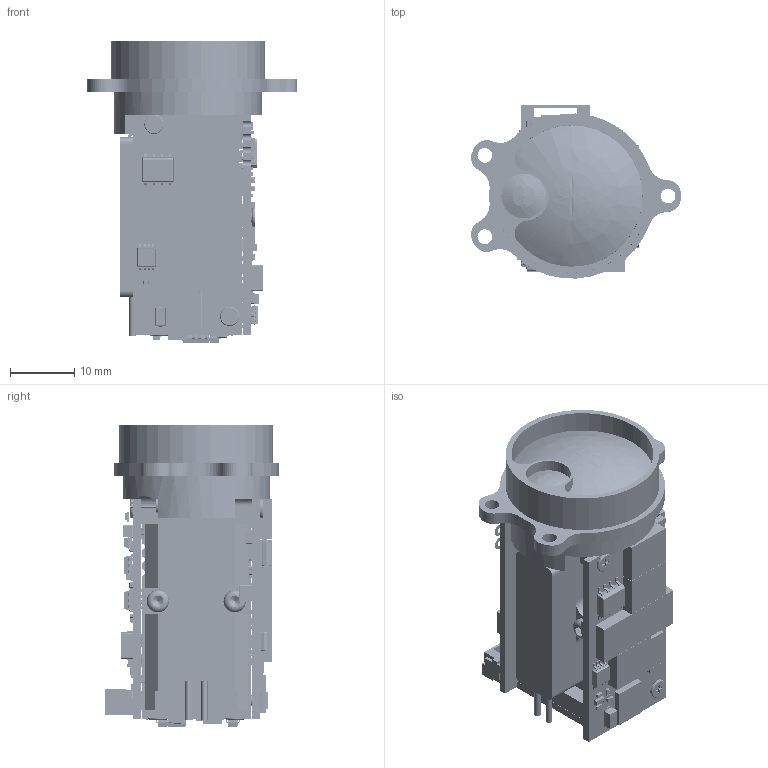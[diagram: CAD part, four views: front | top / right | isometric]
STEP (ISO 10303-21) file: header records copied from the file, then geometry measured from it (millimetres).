
FILE_DESCRIPTION((''),'2;1');
FILE_NAME('1535-1200-V1_ASM','2024-03-14T21:44:10',('TL'),(''),'CREO PARAMETRIC BY PTC INC, 2019224','CREO PARAMETRIC BY PTC INC, 2019224','');
FILE_SCHEMA(('CONFIG_CONTROL_DESIGN'));
Products named in the file (17): 00; 1535_2; 1535_9; 1535_13; 1535_14; 1535_3; NONE-1268; 15350001_ASM; PD; M1_630; GB_T70_2_M240; 000; MB_1; DRI; MB2_1; APD-; 1535-1200-V1_ASM
Assembly tree (24 placements, depth 3):
  1535-1200-V1_ASM
    00
    1535_2
    1535_9
    1535_13
    1535_14
    1535_3
    15350001_ASM
      NONE-1268
    PD
    M1_630  x8
    GB_T70_2_M240  x2
    000
    MB_1
    DRI
    MB2_1
    APD-
Bounding box: 32.73 x 27.09 x 47.11 mm (x, y, z)
Volume: 9572.7 mm3; surface area: 15577.9 mm2
Topology: 96 solids, 183 shells, 19398 faces, 48403 edges, 28455 vertices
Faces by surface type: plane 9212, cylinder 4620, extrusion 2964, sphere 1603, bspline 740, torus 162, cone 95, revolution 2
Entity records: 749605 total; most frequent: CARTESIAN_POINT 318942, ORIENTED_EDGE 92370, DIRECTION 79364, EDGE_CURVE 46190, VECTOR 32996, LINE 30032, VERTEX_POINT 28162, AXIS2_PLACEMENT_3D 23183
